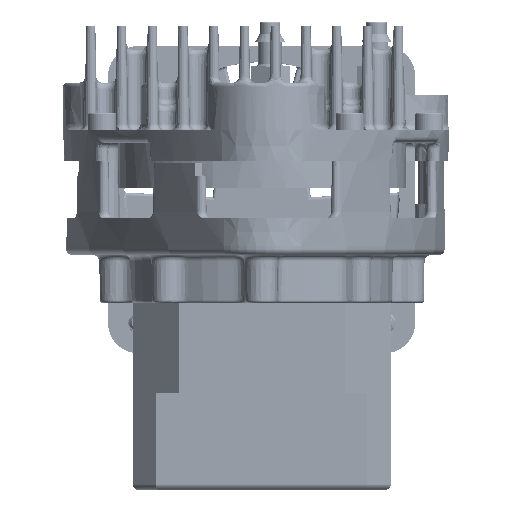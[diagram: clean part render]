
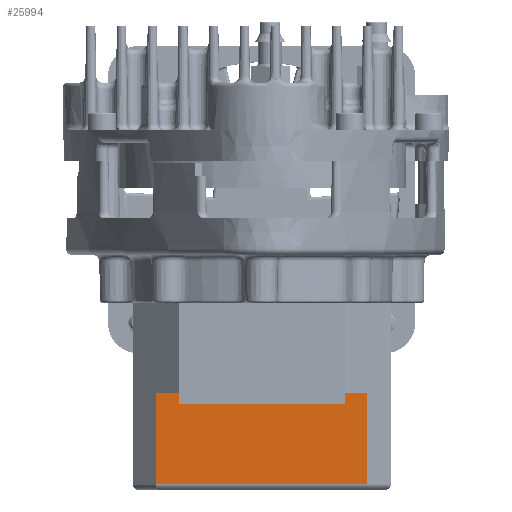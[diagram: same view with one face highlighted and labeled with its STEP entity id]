
A CAD part, front view. The second image highlights one B-rep face of the part: STEP entity #25994.
In plain terms, the highlighted planar face has unit normal (0, -1, 0).
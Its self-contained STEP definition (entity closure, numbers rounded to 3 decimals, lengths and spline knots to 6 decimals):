
#410 = VERTEX_POINT ( 'NONE', #44879 ) ;
#3685 = CARTESIAN_POINT ( 'NONE',  ( -0.0135, -0.021, -0.0337 ) ) ;
#4898 = ORIENTED_EDGE ( 'NONE', *, *, #124413, .F. ) ;
#6836 = FACE_OUTER_BOUND ( 'NONE', #29354, .T. ) ;
#8474 = CARTESIAN_POINT ( 'NONE',  ( 0.0135, -0.021, -0.0352 ) ) ;
#9048 = LINE ( 'NONE', #29311, #81007 ) ;
#11104 = VECTOR ( 'NONE', #81062, 1. ) ;
#12466 = VECTOR ( 'NONE', #59025, 1. ) ;
#13223 = DIRECTION ( 'NONE',  ( 1., 0., 0. ) ) ;
#18931 = LINE ( 'NONE', #29389, #77137 ) ;
#19120 = CARTESIAN_POINT ( 'NONE',  ( 0.017184, -0.021, -0.0467 ) ) ;
#20140 = AXIS2_PLACEMENT_3D ( 'NONE', #87263, #76152, #110566 ) ;
#22668 = VERTEX_POINT ( 'NONE', #87886 ) ;
#25994 = ADVANCED_FACE ( 'NONE', ( #6836 ), #49824, .F. ) ;
#29311 = CARTESIAN_POINT ( 'NONE',  ( -0.017184, -0.021, -0.03195 ) ) ;
#29354 = EDGE_LOOP ( 'NONE', ( #63776, #53592, #59849, #80520, #70551, #85160, #61542, #4898 ) ) ;
#29389 = CARTESIAN_POINT ( 'NONE',  ( 0.017184, -0.021, -0.0352 ) ) ;
#31564 = CARTESIAN_POINT ( 'NONE',  ( 0.0135, -0.021, -0.03195 ) ) ;
#32459 = DIRECTION ( 'NONE',  ( 1., 0., 0. ) ) ;
#34113 = EDGE_CURVE ( 'NONE', #103866, #38970, #120408, .T. ) ;
#34651 = VECTOR ( 'NONE', #100550, 1. ) ;
#36219 = CARTESIAN_POINT ( 'NONE',  ( -0.0135, -0.021, -0.0337 ) ) ;
#38970 = VERTEX_POINT ( 'NONE', #128847 ) ;
#43871 = CARTESIAN_POINT ( 'NONE',  ( 0.017184, -0.021, -0.0467 ) ) ;
#44879 = CARTESIAN_POINT ( 'NONE',  ( -0.017184, -0.021, -0.0467 ) ) ;
#46564 = CARTESIAN_POINT ( 'NONE',  ( -0.017184, -0.021, -0.03195 ) ) ;
#47453 = VERTEX_POINT ( 'NONE', #43871 ) ;
#48950 = LINE ( 'NONE', #88815, #64701 ) ;
#49664 = LINE ( 'NONE', #8474, #11104 ) ;
#49824 = PLANE ( 'NONE',  #20140 ) ;
#53592 = ORIENTED_EDGE ( 'NONE', *, *, #83394, .T. ) ;
#58779 = EDGE_CURVE ( 'NONE', #110178, #64952, #123227, .T. ) ;
#58839 = DIRECTION ( 'NONE',  ( 0., 0., -1. ) ) ;
#59025 = DIRECTION ( 'NONE',  ( 1., 0., 0. ) ) ;
#59849 = ORIENTED_EDGE ( 'NONE', *, *, #82460, .F. ) ;
#61542 = ORIENTED_EDGE ( 'NONE', *, *, #121550, .F. ) ;
#63776 = ORIENTED_EDGE ( 'NONE', *, *, #108705, .T. ) ;
#64701 = VECTOR ( 'NONE', #79056, 1. ) ;
#64952 = VERTEX_POINT ( 'NONE', #65494 ) ;
#65494 = CARTESIAN_POINT ( 'NONE',  ( 0.0135, -0.021, -0.0337 ) ) ;
#70551 = ORIENTED_EDGE ( 'NONE', *, *, #114493, .T. ) ;
#75932 = VECTOR ( 'NONE', #13223, 1. ) ;
#76152 = DIRECTION ( 'NONE',  ( 0., 1., 0. ) ) ;
#77137 = VECTOR ( 'NONE', #58839, 1. ) ;
#77692 = CARTESIAN_POINT ( 'NONE',  ( -0.0135, -0.021, -0.0352 ) ) ;
#79056 = DIRECTION ( 'NONE',  ( 0., 0., -1. ) ) ;
#80520 = ORIENTED_EDGE ( 'NONE', *, *, #34113, .F. ) ;
#81007 = VECTOR ( 'NONE', #86232, 1. ) ;
#81062 = DIRECTION ( 'NONE',  ( 0., 0., -1. ) ) ;
#82460 = EDGE_CURVE ( 'NONE', #38970, #47453, #18931, .T. ) ;
#83365 = CARTESIAN_POINT ( 'NONE',  ( 0.0135, -0.021, -0.03195 ) ) ;
#83394 = EDGE_CURVE ( 'NONE', #410, #47453, #109318, .T. ) ;
#85160 = ORIENTED_EDGE ( 'NONE', *, *, #58779, .F. ) ;
#86232 = DIRECTION ( 'NONE',  ( 1., 0., 0. ) ) ;
#87263 = CARTESIAN_POINT ( 'NONE',  ( 0., -0.021, -0.03695 ) ) ;
#87886 = CARTESIAN_POINT ( 'NONE',  ( -0.0135, -0.021, -0.03195 ) ) ;
#88815 = CARTESIAN_POINT ( 'NONE',  ( -0.017184, -0.021, -0.0352 ) ) ;
#100550 = DIRECTION ( 'NONE',  ( 0., 0., -1. ) ) ;
#103866 = VERTEX_POINT ( 'NONE', #83365 ) ;
#108705 = EDGE_CURVE ( 'NONE', #128857, #410, #48950, .T. ) ;
#109318 = LINE ( 'NONE', #19120, #12466 ) ;
#110178 = VERTEX_POINT ( 'NONE', #36219 ) ;
#110566 = DIRECTION ( 'NONE',  ( 0., 0., 1. ) ) ;
#114493 = EDGE_CURVE ( 'NONE', #103866, #64952, #49664, .T. ) ;
#117464 = VECTOR ( 'NONE', #32459, 1. ) ;
#118769 = LINE ( 'NONE', #77692, #34651 ) ;
#120408 = LINE ( 'NONE', #31564, #75932 ) ;
#121550 = EDGE_CURVE ( 'NONE', #22668, #110178, #118769, .T. ) ;
#123227 = LINE ( 'NONE', #3685, #117464 ) ;
#124413 = EDGE_CURVE ( 'NONE', #128857, #22668, #9048, .T. ) ;
#128847 = CARTESIAN_POINT ( 'NONE',  ( 0.017184, -0.021, -0.03195 ) ) ;
#128857 = VERTEX_POINT ( 'NONE', #46564 ) ;
